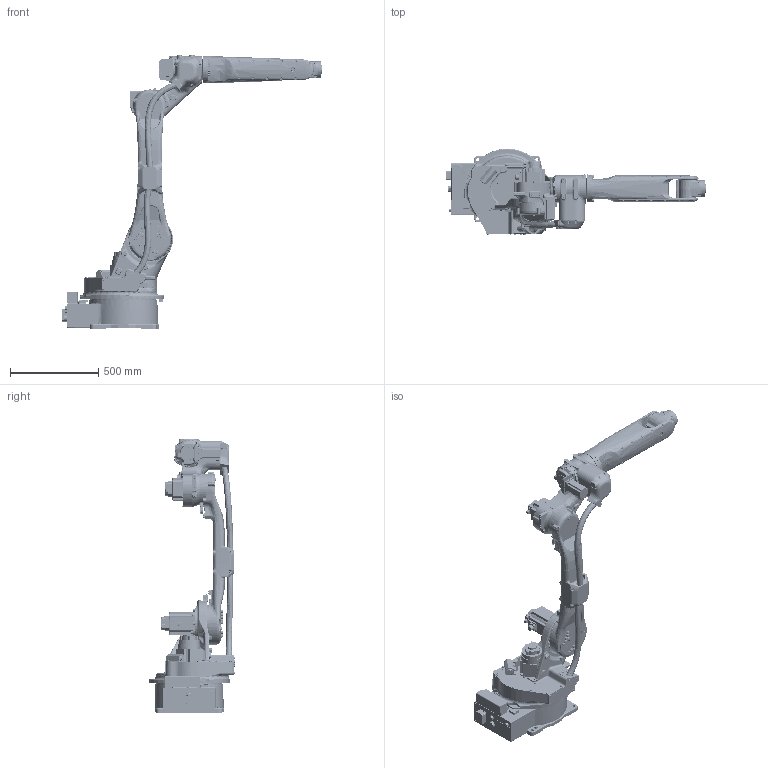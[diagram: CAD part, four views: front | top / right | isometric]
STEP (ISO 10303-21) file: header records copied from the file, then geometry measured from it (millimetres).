
FILE_DESCRIPTION(/* description */ (''),/* implementation_level */ '2;1');
FILE_NAME(/* name */ 'GP20.stp',/* time_stamp */ '2021-11-15T09:56:31+01:00',/* author */ (''),/* organization */ (''),/* preprocessor_version */ 'ST-DEVELOPER v16.7',/* originating_system */ 'SIEMENS PLM Software NX 12.0',/* authorisation */ '');
FILE_SCHEMA (('AUTOMOTIVE_DESIGN { 1 0 10303 214 3 1 1 1 }'));
Products named in the file (8): GP20_T_AXIS^GP20; GP20_B_AXIS^GP20; GP20_U_AXIS^GP20; GP20_BASE_AXIS^GP20_Standard; GP20_L_AXIS^GP20; GP20_S_AXIS^GP20; GP20_R_AXIS^GP20; GP20
Assembly tree (7 placements, depth 2):
  GP20
    GP20_R_AXIS^GP20
    GP20_S_AXIS^GP20
    GP20_L_AXIS^GP20
    GP20_BASE_AXIS^GP20_Standard
    GP20_U_AXIS^GP20
    GP20_B_AXIS^GP20
    GP20_T_AXIS^GP20
Bounding box: 1472.85 x 490.5 x 1546.09 mm (x, y, z)
Volume: 85889676.5 mm3; surface area: 3565452.3 mm2
Topology: 7 solids, 7 shells, 7324 faces, 18055 edges, 11125 vertices
Faces by surface type: plane 2541, cylinder 2131, bspline 1551, cone 517, torus 503, sphere 81
Full cylindrical faces by diameter (mm): 7.2 x2, 10.014 x3, 13.4 x1
Entity records: 381675 total; most frequent: CARTESIAN_POINT 216456, ORIENTED_EDGE 35850, DIRECTION 30747, EDGE_CURVE 17925, AXIS2_PLACEMENT_3D 11755, VERTEX_POINT 11116, EDGE_LOOP 7871, ADVANCED_FACE 7324
